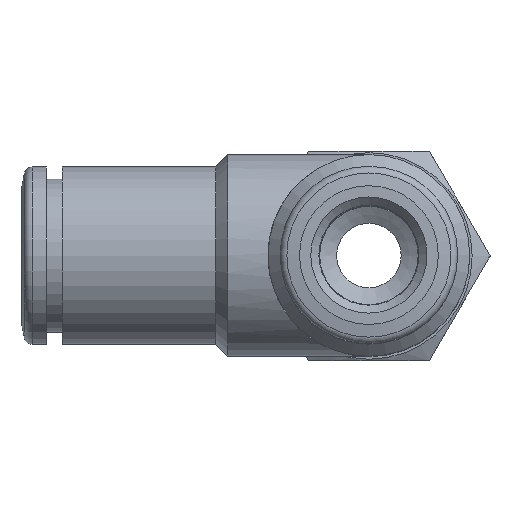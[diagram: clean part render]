
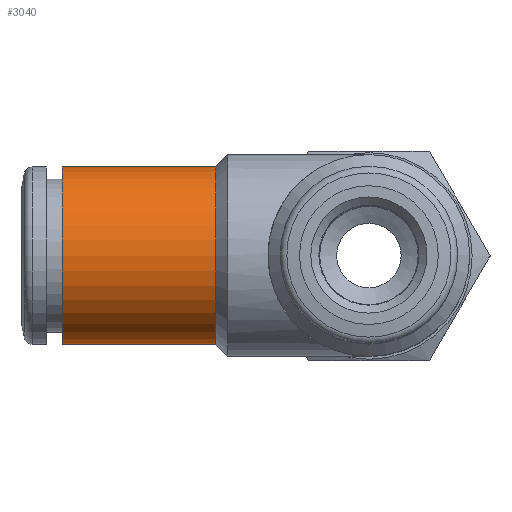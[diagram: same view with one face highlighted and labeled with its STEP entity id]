
A CAD part, top view. The second image highlights one B-rep face of the part: STEP entity #3040.
In plain terms, the highlighted cylindrical face has radius 5.5 mm (diameter 11 mm), a full revolution.
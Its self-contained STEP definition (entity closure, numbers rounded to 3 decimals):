
#3040=ADVANCED_FACE('', (#3050,#3060), #3070, .T.);
#8490=AXIS2_PLACEMENT_3D('Ax2Pl3d', #8500, #8510, #8520);
#10250=AXIS2_PLACEMENT_3D('Ax2Pl3d', #10260, #10270, #10280);
#10290=AXIS2_PLACEMENT_3D('Ax2Pl3d', #10300, #10310, #10320);
#8500=CARTESIAN_POINT('HicPkt', (9.229,10.025,
29.271));
#20570=CARTESIAN_POINT('', (9.229,15.525,29.271));
#10260=CARTESIAN_POINT('HicPkt', (18.729,10.025,
29.271));
#20790=CARTESIAN_POINT('', (18.729,10.025,34.771));
#10300=CARTESIAN_POINT('HicPkt', (9.229,10.025,
29.271));
#21530=CIRCLE('Circle', #8490, 5.5);
#21730=CIRCLE('Circle', #10250, 5.5);
#3070=CYLINDRICAL_SURFACE('Zyl', #10290, 5.5);
#8510=DIRECTION('Axis', (1.,0.,0.));
#8520=DIRECTION('RefDirection', (0.,0.,-1.));
#10270=DIRECTION('Axis', (1.,0.,0.));
#10280=DIRECTION('RefDirection', (0.,0.,-1.));
#10310=DIRECTION('Axis', (1.,0.,0.));
#10320=DIRECTION('RefDirection', (0.,0.,-1.));
#27120=EDGE_CURVE('', #27130, #27130, #21530, .T.);
#27580=EDGE_CURVE('', #27590, #27590, #21730, .T.);
#31320=EDGE_LOOP('Edge_loop', (#31330));
#31340=EDGE_LOOP('Edge_loop', (#31350));
#3060=FACE_BOUND('', #31340, .T.);
#3050=FACE_OUTER_BOUND('Face_outer_bound', #31320, .T.);
#31330=ORIENTED_EDGE('', *, *, #27580, .F.);
#31350=ORIENTED_EDGE('', *, *, #27120, .T.);
#27130=VERTEX_POINT('', #20570);
#27590=VERTEX_POINT('', #20790);
